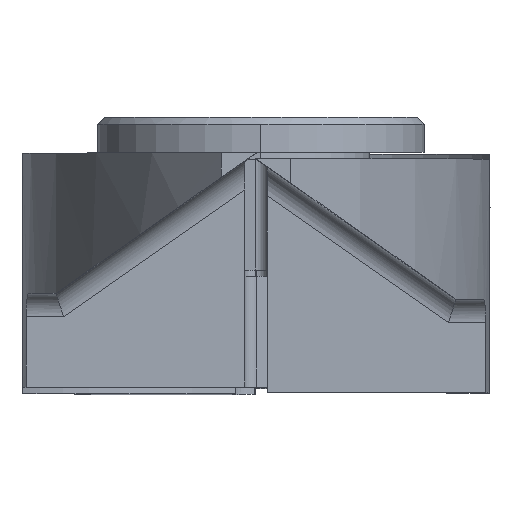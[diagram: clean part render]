
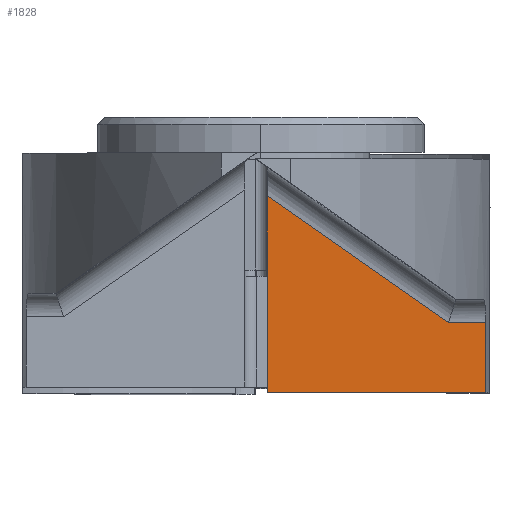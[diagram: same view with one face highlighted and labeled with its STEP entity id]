
A CAD part, top view. The second image highlights one B-rep face of the part: STEP entity #1828.
In plain terms, the highlighted planar face has unit normal (0, 0, 1).
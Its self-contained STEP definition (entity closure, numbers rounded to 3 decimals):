
#89 = DIRECTION ( 'NONE',  ( 0., -1., 0. ) ) ;
#120 = CARTESIAN_POINT ( 'NONE',  ( 9.055, 3., 13. ) ) ;
#221 = CARTESIAN_POINT ( 'NONE',  ( 8.254, 3., 13. ) ) ;
#441 = CARTESIAN_POINT ( 'NONE',  ( 9.857, 3., 13. ) ) ;
#452 = CARTESIAN_POINT ( 'NONE',  ( 0.5, 5., 13. ) ) ;
#492 = CARTESIAN_POINT ( 'NONE',  ( 0.5, 0., 13. ) ) ;
#537 = CARTESIAN_POINT ( 'NONE',  ( 0.5, 8.429, 13. ) ) ;
#573 = AXIS2_PLACEMENT_3D ( 'NONE', #1082, #1120, #1176 ) ;
#615 = CARTESIAN_POINT ( 'NONE',  ( 5.221, 0., 13. ) ) ;
#634 = EDGE_CURVE ( 'NONE', #1903, #1189, #1679, .T. ) ;
#755 = LINE ( 'NONE', #761, #2535 ) ;
#761 = CARTESIAN_POINT ( 'NONE',  ( 8.254, 3., 13. ) ) ;
#1074 = DIRECTION ( 'NONE',  ( -1., 0., 0. ) ) ;
#1082 = CARTESIAN_POINT ( 'NONE',  ( 0.5, 0., 13. ) ) ;
#1120 = DIRECTION ( 'NONE',  ( 0., 0., 1. ) ) ;
#1176 = DIRECTION ( 'NONE',  ( 1., 0., 0. ) ) ;
#1183 = CARTESIAN_POINT ( 'NONE',  ( 9.857, 0., 13. ) ) ;
#1187 = PLANE ( 'NONE',  #573 ) ;
#1189 = VERTEX_POINT ( 'NONE', #492 ) ;
#1242 = EDGE_CURVE ( 'NONE', #4250, #3306, #755, .T. ) ;
#1583 = ORIENTED_EDGE ( 'NONE', *, *, #3535, .F. ) ;
#1679 = LINE ( 'NONE', #615, #3286 ) ;
#1707 = DIRECTION ( 'NONE',  ( 1., 0., 0. ) ) ;
#1739 = EDGE_CURVE ( 'NONE', #4250, #4094, #1988, .T. ) ;
#1771 = FACE_OUTER_BOUND ( 'NONE', #4153, .T. ) ;
#1828 = ADVANCED_FACE ( 'NONE', ( #1771 ), #1187, .T. ) ;
#1831 = DIRECTION ( 'NONE',  ( 0., 1., 0. ) ) ;
#1903 = VERTEX_POINT ( 'NONE', #1183 ) ;
#1988 = LINE ( 'NONE', #120, #2820 ) ;
#2301 = LINE ( 'NONE', #4018, #3865 ) ;
#2535 = VECTOR ( 'NONE', #3932, 1000. ) ;
#2588 = ORIENTED_EDGE ( 'NONE', *, *, #1242, .T. ) ;
#2628 = VECTOR ( 'NONE', #1831, 1000. ) ;
#2701 = EDGE_CURVE ( 'NONE', #1189, #3306, #3471, .T. ) ;
#2820 = VECTOR ( 'NONE', #1707, 1000. ) ;
#3286 = VECTOR ( 'NONE', #1074, 1000. ) ;
#3306 = VERTEX_POINT ( 'NONE', #537 ) ;
#3471 = LINE ( 'NONE', #452, #2628 ) ;
#3535 = EDGE_CURVE ( 'NONE', #4094, #1903, #2301, .T. ) ;
#3683 = ORIENTED_EDGE ( 'NONE', *, *, #2701, .F. ) ;
#3737 = ORIENTED_EDGE ( 'NONE', *, *, #1739, .F. ) ;
#3865 = VECTOR ( 'NONE', #89, 1000. ) ;
#3932 = DIRECTION ( 'NONE',  ( -0.819, 0.574, 0. ) ) ;
#3948 = ORIENTED_EDGE ( 'NONE', *, *, #634, .F. ) ;
#4018 = CARTESIAN_POINT ( 'NONE',  ( 9.857, 5., 13. ) ) ;
#4094 = VERTEX_POINT ( 'NONE', #441 ) ;
#4153 = EDGE_LOOP ( 'NONE', ( #2588, #3683, #3948, #1583, #3737 ) ) ;
#4250 = VERTEX_POINT ( 'NONE', #221 ) ;
